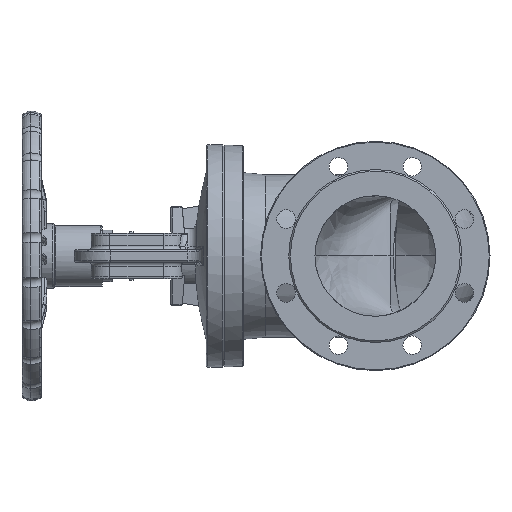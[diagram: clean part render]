
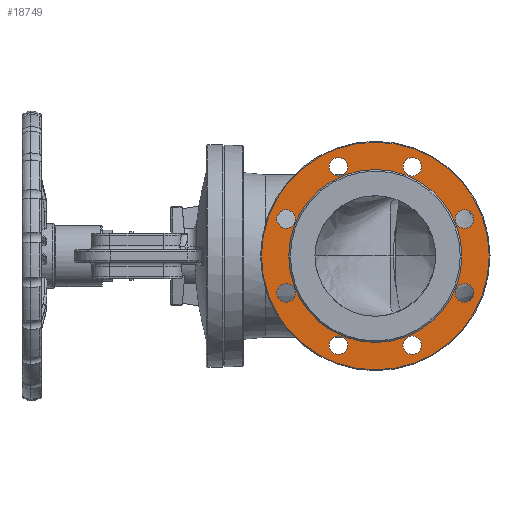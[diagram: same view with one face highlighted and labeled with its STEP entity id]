
A CAD part, left-side view. The second image highlights one B-rep face of the part: STEP entity #18749.
In plain terms, the highlighted planar face has unit normal (-1, 0, 0).
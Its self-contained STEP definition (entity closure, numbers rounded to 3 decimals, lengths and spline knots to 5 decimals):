
#90=PLANE('',#20110);
#360=FACE_BOUND('',#3425,.T.);
#361=FACE_BOUND('',#3426,.T.);
#362=FACE_BOUND('',#3427,.T.);
#363=FACE_BOUND('',#3428,.T.);
#364=FACE_BOUND('',#3429,.T.);
#365=FACE_BOUND('',#3430,.T.);
#366=FACE_BOUND('',#3431,.T.);
#367=FACE_BOUND('',#3432,.T.);
#368=FACE_BOUND('',#3433,.T.);
#2264=FACE_OUTER_BOUND('',#3424,.T.);
#3424=EDGE_LOOP('',(#13178));
#3425=EDGE_LOOP('',(#13179));
#3426=EDGE_LOOP('',(#13180));
#3427=EDGE_LOOP('',(#13181));
#3428=EDGE_LOOP('',(#13182));
#3429=EDGE_LOOP('',(#13183));
#3430=EDGE_LOOP('',(#13184));
#3431=EDGE_LOOP('',(#13185));
#3432=EDGE_LOOP('',(#13186));
#3433=EDGE_LOOP('',(#13187));
#6431=CIRCLE('',#19923,0.1415);
#6461=CIRCLE('',#19965,0.1075);
#6468=CIRCLE('',#19976,0.0115);
#6470=CIRCLE('',#19979,0.0115);
#6472=CIRCLE('',#19982,0.0115);
#6474=CIRCLE('',#19985,0.0115);
#6476=CIRCLE('',#19988,0.0115);
#6478=CIRCLE('',#19991,0.0115);
#6480=CIRCLE('',#19994,0.0115);
#6482=CIRCLE('',#19997,0.0115);
#7638=VERTEX_POINT('',#27450);
#7696=VERTEX_POINT('',#32504);
#7727=VERTEX_POINT('',#102249);
#7729=VERTEX_POINT('',#102255);
#7731=VERTEX_POINT('',#102261);
#7733=VERTEX_POINT('',#102267);
#7735=VERTEX_POINT('',#102273);
#7737=VERTEX_POINT('',#102279);
#7739=VERTEX_POINT('',#102285);
#7741=VERTEX_POINT('',#102291);
#9548=EDGE_CURVE('',#7638,#7638,#6431,.T.);
#9617=EDGE_CURVE('',#7696,#7696,#6461,.T.);
#9652=EDGE_CURVE('',#7727,#7727,#6468,.T.);
#9655=EDGE_CURVE('',#7729,#7729,#6470,.T.);
#9658=EDGE_CURVE('',#7731,#7731,#6472,.T.);
#9661=EDGE_CURVE('',#7733,#7733,#6474,.T.);
#9664=EDGE_CURVE('',#7735,#7735,#6476,.T.);
#9667=EDGE_CURVE('',#7737,#7737,#6478,.T.);
#9670=EDGE_CURVE('',#7739,#7739,#6480,.T.);
#9673=EDGE_CURVE('',#7741,#7741,#6482,.T.);
#13178=ORIENTED_EDGE('',*,*,#9548,.T.);
#13179=ORIENTED_EDGE('',*,*,#9652,.F.);
#13180=ORIENTED_EDGE('',*,*,#9655,.F.);
#13181=ORIENTED_EDGE('',*,*,#9658,.F.);
#13182=ORIENTED_EDGE('',*,*,#9661,.F.);
#13183=ORIENTED_EDGE('',*,*,#9664,.F.);
#13184=ORIENTED_EDGE('',*,*,#9667,.F.);
#13185=ORIENTED_EDGE('',*,*,#9670,.F.);
#13186=ORIENTED_EDGE('',*,*,#9673,.F.);
#13187=ORIENTED_EDGE('',*,*,#9617,.F.);
#18749=ADVANCED_FACE('',(#2264,#360,#361,#362,#363,#364,#365,#366,#367,
#368),#90,.T.);
#19923=AXIS2_PLACEMENT_3D('',#27452,#22125,#22126);
#19965=AXIS2_PLACEMENT_3D('',#32505,#22215,#22216);
#19976=AXIS2_PLACEMENT_3D('',#102251,#22240,#22241);
#19979=AXIS2_PLACEMENT_3D('',#102257,#22247,#22248);
#19982=AXIS2_PLACEMENT_3D('',#102263,#22254,#22255);
#19985=AXIS2_PLACEMENT_3D('',#102269,#22261,#22262);
#19988=AXIS2_PLACEMENT_3D('',#102275,#22268,#22269);
#19991=AXIS2_PLACEMENT_3D('',#102281,#22275,#22276);
#19994=AXIS2_PLACEMENT_3D('',#102287,#22282,#22283);
#19997=AXIS2_PLACEMENT_3D('',#102293,#22289,#22290);
#20110=AXIS2_PLACEMENT_3D('',#249728,#22567,#22568);
#22125=DIRECTION('center_axis',(-1.,0.,0.));
#22126=DIRECTION('ref_axis',(0.,-1.,0.));
#22215=DIRECTION('center_axis',(-1.,0.,0.));
#22216=DIRECTION('ref_axis',(0.,-1.,0.));
#22240=DIRECTION('center_axis',(-1.,0.,0.));
#22241=DIRECTION('ref_axis',(0.,-1.,0.));
#22247=DIRECTION('center_axis',(-1.,0.,0.));
#22248=DIRECTION('ref_axis',(0.,-1.,0.));
#22254=DIRECTION('center_axis',(-1.,0.,0.));
#22255=DIRECTION('ref_axis',(0.,-1.,0.));
#22261=DIRECTION('center_axis',(-1.,0.,0.));
#22262=DIRECTION('ref_axis',(0.,-1.,0.));
#22268=DIRECTION('center_axis',(-1.,0.,0.));
#22269=DIRECTION('ref_axis',(0.,-1.,0.));
#22275=DIRECTION('center_axis',(-1.,0.,0.));
#22276=DIRECTION('ref_axis',(0.,-1.,0.));
#22282=DIRECTION('center_axis',(-1.,0.,0.));
#22283=DIRECTION('ref_axis',(0.,-1.,0.));
#22289=DIRECTION('center_axis',(-1.,0.,0.));
#22290=DIRECTION('ref_axis',(0.,-1.,0.));
#22567=DIRECTION('center_axis',(-1.,0.,0.));
#22568=DIRECTION('ref_axis',(0.,-1.,0.));
#27450=CARTESIAN_POINT('',(-0.19823,-0.08257,0.));
#27452=CARTESIAN_POINT('Origin',(-0.19823,0.05893,
0.));
#32504=CARTESIAN_POINT('',(-0.19823,-0.04857,0.));
#32505=CARTESIAN_POINT('Origin',(-0.19823,0.05893,
0.));
#102249=CARTESIAN_POINT('',(-0.19823,-0.04043,-0.04594));
#102251=CARTESIAN_POINT('Origin',(-0.19823,-0.05193,
-0.04594));
#102255=CARTESIAN_POINT('',(-0.19823,-0.04045,0.0459));
#102257=CARTESIAN_POINT('Origin',(-0.19823,-0.05195,
0.0459));
#102261=CARTESIAN_POINT('',(-0.19823,0.02448,0.11086));
#102263=CARTESIAN_POINT('Origin',(-0.19823,0.01298,
0.11086));
#102267=CARTESIAN_POINT('',(-0.19823,0.11633,0.11087));
#102269=CARTESIAN_POINT('Origin',(-0.19823,0.10483,
0.11087));
#102273=CARTESIAN_POINT('',(-0.19823,0.18129,0.04594));
#102275=CARTESIAN_POINT('Origin',(-0.19823,0.16979,
0.04594));
#102279=CARTESIAN_POINT('',(-0.19823,0.1813,-0.0459));
#102281=CARTESIAN_POINT('Origin',(-0.19823,0.1698,
-0.0459));
#102285=CARTESIAN_POINT('',(-0.19823,0.11637,-0.11086));
#102287=CARTESIAN_POINT('Origin',(-0.19823,0.10487,
-0.11086));
#102291=CARTESIAN_POINT('',(-0.19823,0.02453,-0.11087));
#102293=CARTESIAN_POINT('Origin',(-0.19823,0.01303,
-0.11087));
#249728=CARTESIAN_POINT('Origin',(-0.19823,0.,
0.));
